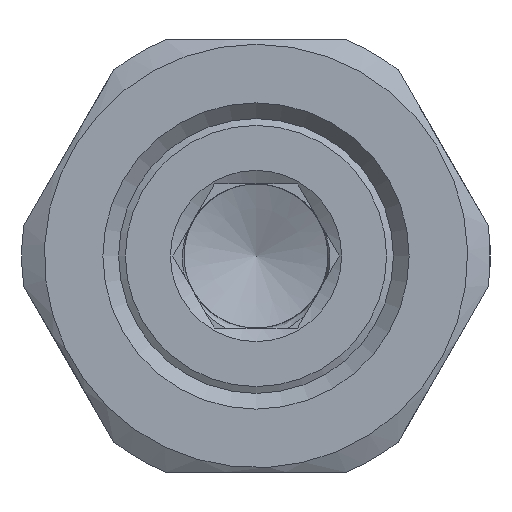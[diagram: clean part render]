
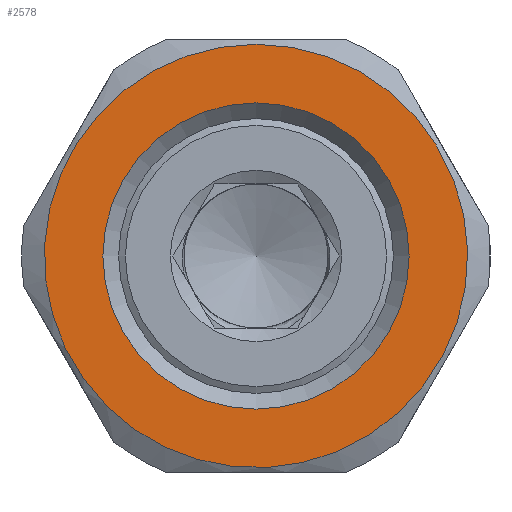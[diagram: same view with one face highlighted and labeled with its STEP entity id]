
A CAD part, left-side view. The second image highlights one B-rep face of the part: STEP entity #2578.
In plain terms, the highlighted planar face has unit normal (-1, 0, 0).
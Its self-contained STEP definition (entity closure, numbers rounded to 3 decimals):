
#39 = EDGE_LOOP ( 'NONE', ( #3382 ) ) ;
#45 = CARTESIAN_POINT ( 'NONE',  ( 0., 0., 8.5 ) ) ;
#538 = EDGE_CURVE ( 'NONE', #3043, #3043, #938, .T. ) ;
#692 = ORIENTED_EDGE ( 'NONE', *, *, #3729, .F. ) ;
#804 = CARTESIAN_POINT ( 'NONE',  ( 0., 0., 0. ) ) ;
#938 = CIRCLE ( 'NONE', #2108, 11.75 ) ;
#1986 = DIRECTION ( 'NONE',  ( -1., 0., 0. ) ) ;
#2108 = AXIS2_PLACEMENT_3D ( 'NONE', #2321, #1986, #4859 ) ;
#2123 = CARTESIAN_POINT ( 'NONE',  ( 0., 0., 11.75 ) ) ;
#2196 = FACE_OUTER_BOUND ( 'NONE', #39, .T. ) ;
#2321 = CARTESIAN_POINT ( 'NONE',  ( 0., 0., 0. ) ) ;
#2369 = CIRCLE ( 'NONE', #2406, 8.5 ) ;
#2373 = CARTESIAN_POINT ( 'NONE',  ( 0., 8.5, 0. ) ) ;
#2406 = AXIS2_PLACEMENT_3D ( 'NONE', #804, #3638, #3282 ) ;
#2578 = ADVANCED_FACE ( 'NONE', ( #4639, #2196 ), #3141, .F. ) ;
#3043 = VERTEX_POINT ( 'NONE', #2123 ) ;
#3141 = PLANE ( 'NONE',  #4917 ) ;
#3166 = VERTEX_POINT ( 'NONE', #45 ) ;
#3194 = DIRECTION ( 'NONE',  ( 0., 0., -1. ) ) ;
#3282 = DIRECTION ( 'NONE',  ( 0., 0., 1. ) ) ;
#3382 = ORIENTED_EDGE ( 'NONE', *, *, #538, .T. ) ;
#3633 = DIRECTION ( 'NONE',  ( 1., 0., 0. ) ) ;
#3638 = DIRECTION ( 'NONE',  ( -1., 0., 0. ) ) ;
#3729 = EDGE_CURVE ( 'NONE', #3166, #3166, #2369, .T. ) ;
#4639 = FACE_BOUND ( 'NONE', #5215, .T. ) ;
#4859 = DIRECTION ( 'NONE',  ( 0., 0., 1. ) ) ;
#4917 = AXIS2_PLACEMENT_3D ( 'NONE', #2373, #3633, #3194 ) ;
#5215 = EDGE_LOOP ( 'NONE', ( #692 ) ) ;
